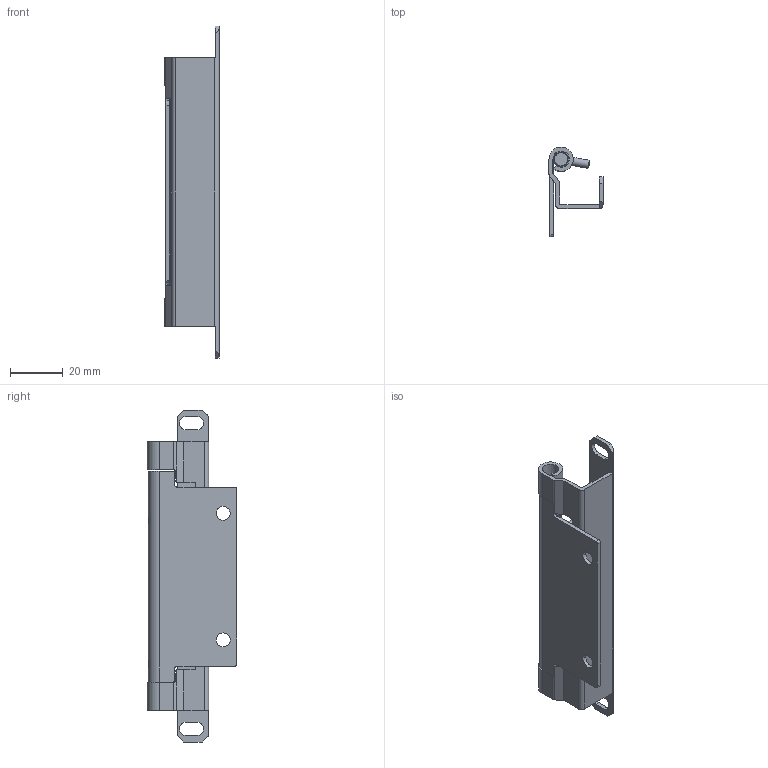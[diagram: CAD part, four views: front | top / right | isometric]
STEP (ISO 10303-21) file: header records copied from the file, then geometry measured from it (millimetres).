
FILE_DESCRIPTION (( 'STEP AP203' ), '1' );
FILE_NAME ('XG02-065-2.STEP', '2023-12-09T03:07:44', ( '' ), ( '' ), 'SwSTEP 2.0', 'SolidWorks 2020', '' );
FILE_SCHEMA (( 'CONFIG_CONTROL_DESIGN' ));
Length unit declared in the file: millimetre
Products named in the file (6): 粟銅; HL042-A; HL042-B; HL042-C; XG02-065-2; HL042
Assembly tree (7 placements, depth 2):
  XG02-065-2
    HL042
    HL042-A
    HL042-B  x2
    HL042-C  x2
    粟銅
Bounding box: 20.5 x 33.95 x 126 mm (x, y, z)
Volume: 13463.1 mm3; surface area: 18627.8 mm2
Topology: 7 solids, 7 shells, 164 faces, 426 edges, 274 vertices
Faces by surface type: plane 72, cylinder 64, cone 16, bspline 12
Entity records: 13087 total; most frequent: CARTESIAN_POINT 8913, ORIENTED_EDGE 756, DIRECTION 696, EDGE_CURVE 378, VERTEX_POINT 246, AXIS2_PLACEMENT_3D 240, VECTOR 216, LINE 216
